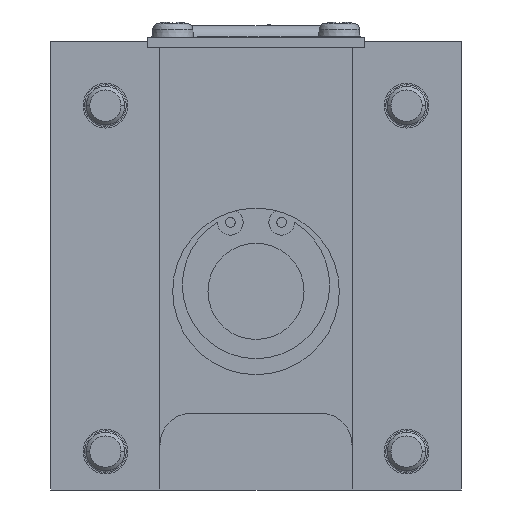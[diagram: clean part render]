
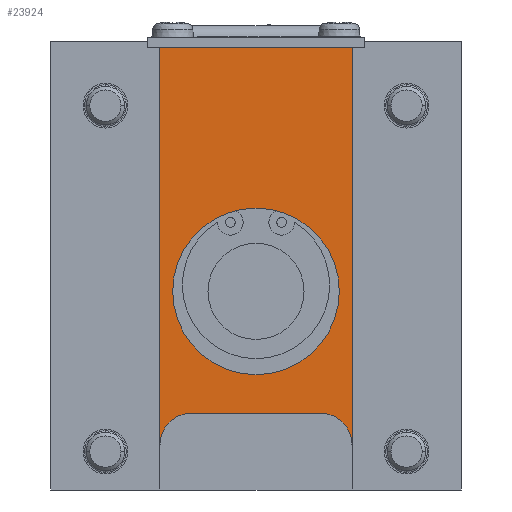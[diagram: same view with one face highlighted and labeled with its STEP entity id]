
A CAD part, front view. The second image highlights one B-rep face of the part: STEP entity #23924.
In plain terms, the highlighted planar face has unit normal (0, -1, 0).
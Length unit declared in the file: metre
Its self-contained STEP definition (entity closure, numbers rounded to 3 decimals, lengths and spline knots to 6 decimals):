
#201 = CARTESIAN_POINT ( 'NONE',  ( 0., 0., 0. ) ) ;
#210 = VERTEX_POINT ( 'NONE', #19379 ) ;
#1040 = FACE_BOUND ( 'NONE', #20083, .T. ) ;
#1221 = ORIENTED_EDGE ( 'NONE', *, *, #19420, .F. ) ;
#1368 = VERTEX_POINT ( 'NONE', #22484 ) ;
#1813 = AXIS2_PLACEMENT_3D ( 'NONE', #2622, #18767, #4905 ) ;
#1940 = CARTESIAN_POINT ( 'NONE',  ( 0., 0., -0.013 ) ) ;
#2258 = CARTESIAN_POINT ( 'NONE',  ( -0.015, 0., 0.038 ) ) ;
#2545 = DIRECTION ( 'NONE',  ( 0., 0., -1. ) ) ;
#2622 = CARTESIAN_POINT ( 'NONE',  ( -0.01, 0., -0.024 ) ) ;
#2676 = CARTESIAN_POINT ( 'NONE',  ( 0.015, 0., 0.006814 ) ) ;
#2790 = LINE ( 'NONE', #2676, #26386 ) ;
#3026 = ORIENTED_EDGE ( 'NONE', *, *, #6431, .T. ) ;
#3146 = VERTEX_POINT ( 'NONE', #13443 ) ;
#3385 = VECTOR ( 'NONE', #8266, 1. ) ;
#3888 = ORIENTED_EDGE ( 'NONE', *, *, #16412, .T. ) ;
#4339 = DIRECTION ( 'NONE',  ( 0., 1., 0. ) ) ;
#4715 = CARTESIAN_POINT ( 'NONE',  ( -0.01, 0., -0.019 ) ) ;
#4905 = DIRECTION ( 'NONE',  ( 0., 0., -1. ) ) ;
#5396 = VERTEX_POINT ( 'NONE', #8193 ) ;
#5494 = LINE ( 'NONE', #27357, #6214 ) ;
#5901 = CIRCLE ( 'NONE', #20768, 0.013 ) ;
#6126 = CARTESIAN_POINT ( 'NONE',  ( 0., 0., 0. ) ) ;
#6214 = VECTOR ( 'NONE', #9317, 1. ) ;
#6431 = EDGE_CURVE ( 'NONE', #5396, #19584, #21394, .T. ) ;
#6767 = AXIS2_PLACEMENT_3D ( 'NONE', #2258, #25172, #11551 ) ;
#7234 = CIRCLE ( 'NONE', #20419, 0.013 ) ;
#7930 = ORIENTED_EDGE ( 'NONE', *, *, #22592, .F. ) ;
#8193 = CARTESIAN_POINT ( 'NONE',  ( -0.015, 0., -0.024 ) ) ;
#8266 = DIRECTION ( 'NONE',  ( -1., 0., 0. ) ) ;
#8471 = DIRECTION ( 'NONE',  ( 0., 0., -1. ) ) ;
#9317 = DIRECTION ( 'NONE',  ( 1., 0., 0. ) ) ;
#9518 = VERTEX_POINT ( 'NONE', #18487 ) ;
#10735 = CARTESIAN_POINT ( 'NONE',  ( -0.015, 0., 0.006814 ) ) ;
#11551 = DIRECTION ( 'NONE',  ( 0., 0., -1. ) ) ;
#11612 = EDGE_LOOP ( 'NONE', ( #17659, #3026, #17382, #3888, #12826, #23818 ) ) ;
#12675 = AXIS2_PLACEMENT_3D ( 'NONE', #18232, #4339, #20452 ) ;
#12789 = VECTOR ( 'NONE', #24373, 1. ) ;
#12826 = ORIENTED_EDGE ( 'NONE', *, *, #17188, .T. ) ;
#13443 = CARTESIAN_POINT ( 'NONE',  ( 0.015, 0., 0.038 ) ) ;
#13767 = PLANE ( 'NONE',  #6767 ) ;
#16379 = DIRECTION ( 'NONE',  ( 0., -1., 0. ) ) ;
#16404 = VERTEX_POINT ( 'NONE', #1940 ) ;
#16412 = EDGE_CURVE ( 'NONE', #18642, #9518, #16574, .T. ) ;
#16529 = DIRECTION ( 'NONE',  ( 0., 0., 1. ) ) ;
#16574 = CIRCLE ( 'NONE', #12675, 0.005 ) ;
#17188 = EDGE_CURVE ( 'NONE', #9518, #3146, #2790, .T. ) ;
#17382 = ORIENTED_EDGE ( 'NONE', *, *, #28291, .T. ) ;
#17659 = ORIENTED_EDGE ( 'NONE', *, *, #26148, .T. ) ;
#18232 = CARTESIAN_POINT ( 'NONE',  ( 0.01, 0., -0.024 ) ) ;
#18487 = CARTESIAN_POINT ( 'NONE',  ( 0.015, 0., -0.024 ) ) ;
#18642 = VERTEX_POINT ( 'NONE', #20948 ) ;
#18752 = FACE_OUTER_BOUND ( 'NONE', #11612, .T. ) ;
#18767 = DIRECTION ( 'NONE',  ( 0., 1., 0. ) ) ;
#19379 = CARTESIAN_POINT ( 'NONE',  ( 0., 0., 0.013 ) ) ;
#19420 = EDGE_CURVE ( 'NONE', #210, #16404, #5901, .T. ) ;
#19584 = VERTEX_POINT ( 'NONE', #4715 ) ;
#20083 = EDGE_LOOP ( 'NONE', ( #7930, #1221 ) ) ;
#20419 = AXIS2_PLACEMENT_3D ( 'NONE', #201, #16379, #2545 ) ;
#20452 = DIRECTION ( 'NONE',  ( 0., 0., -1. ) ) ;
#20768 = AXIS2_PLACEMENT_3D ( 'NONE', #6126, #22168, #8471 ) ;
#20948 = CARTESIAN_POINT ( 'NONE',  ( 0.01, 0., -0.019 ) ) ;
#21026 = LINE ( 'NONE', #24248, #3385 ) ;
#21394 = CIRCLE ( 'NONE', #1813, 0.005 ) ;
#22168 = DIRECTION ( 'NONE',  ( 0., -1., 0. ) ) ;
#22484 = CARTESIAN_POINT ( 'NONE',  ( -0.015, 0., 0.038 ) ) ;
#22592 = EDGE_CURVE ( 'NONE', #16404, #210, #7234, .T. ) ;
#23472 = LINE ( 'NONE', #10735, #12789 ) ;
#23818 = ORIENTED_EDGE ( 'NONE', *, *, #27006, .T. ) ;
#23924 = ADVANCED_FACE ( 'NONE', ( #1040, #18752 ), #13767, .T. ) ;
#24248 = CARTESIAN_POINT ( 'NONE',  ( 0., 0., 0.038 ) ) ;
#24373 = DIRECTION ( 'NONE',  ( 0., 0., -1. ) ) ;
#25172 = DIRECTION ( 'NONE',  ( 0., -1., 0. ) ) ;
#26148 = EDGE_CURVE ( 'NONE', #1368, #5396, #23472, .T. ) ;
#26386 = VECTOR ( 'NONE', #16529, 1. ) ;
#27006 = EDGE_CURVE ( 'NONE', #3146, #1368, #21026, .T. ) ;
#27357 = CARTESIAN_POINT ( 'NONE',  ( 0., 0., -0.019 ) ) ;
#28291 = EDGE_CURVE ( 'NONE', #19584, #18642, #5494, .T. ) ;
